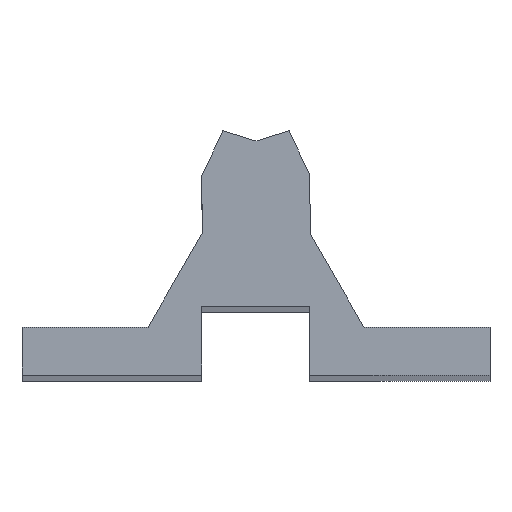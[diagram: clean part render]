
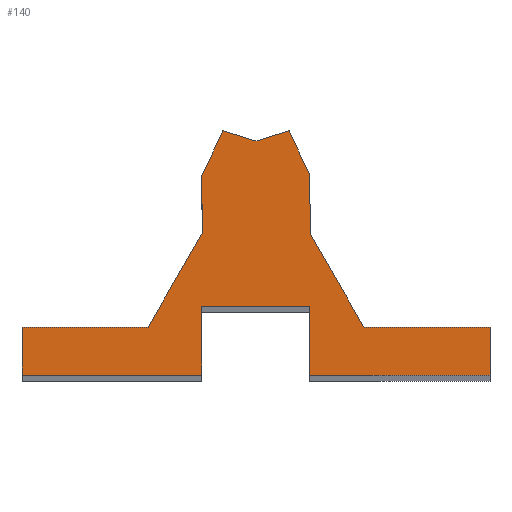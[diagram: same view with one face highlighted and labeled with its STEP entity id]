
A CAD part, top view. The second image highlights one B-rep face of the part: STEP entity #140.
In plain terms, the highlighted planar face has unit normal (0, 0, 1).
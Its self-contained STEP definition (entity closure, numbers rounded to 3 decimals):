
#16 = VERTEX_POINT ( 'NONE', #674 ) ;
#23 = DIRECTION ( 'NONE',  ( -0.5, -0.866, 0. ) ) ;
#33 = DIRECTION ( 'NONE',  ( 0., 1., 0. ) ) ;
#46 = VERTEX_POINT ( 'NONE', #1080 ) ;
#47 = CARTESIAN_POINT ( 'NONE',  ( 9., 7.5, 299.75 ) ) ;
#49 = EDGE_CURVE ( 'NONE', #898, #88, #989, .T. ) ;
#50 = ORIENTED_EDGE ( 'NONE', *, *, #651, .T. ) ;
#51 = ORIENTED_EDGE ( 'NONE', *, *, #745, .F. ) ;
#55 = LINE ( 'NONE', #150, #352 ) ;
#66 = CARTESIAN_POINT ( 'NONE',  ( -39., -4., 299.75 ) ) ;
#67 = CARTESIAN_POINT ( 'NONE',  ( 5.524, 36.771, 299.75 ) ) ;
#68 = CARTESIAN_POINT ( 'NONE',  ( 9., -4., 299.75 ) ) ;
#72 = EDGE_CURVE ( 'NONE', #815, #898, #1181, .T. ) ;
#73 = LINE ( 'NONE', #801, #740 ) ;
#88 = VERTEX_POINT ( 'NONE', #533 ) ;
#100 = ORIENTED_EDGE ( 'NONE', *, *, #729, .T. ) ;
#120 = CARTESIAN_POINT ( 'NONE',  ( -9., 19.588, 299.75 ) ) ;
#122 = EDGE_CURVE ( 'NONE', #1144, #1040, #696, .T. ) ;
#128 = VECTOR ( 'NONE', #877, 1000. ) ;
#140 = ADVANCED_FACE ( 'NONE', ( #467 ), #837, .T. ) ;
#147 = CARTESIAN_POINT ( 'NONE',  ( 9., 29.265, 299.75 ) ) ;
#150 = CARTESIAN_POINT ( 'NONE',  ( -9., 7.5, 299.75 ) ) ;
#157 = DIRECTION ( 'NONE',  ( 0., -1., 0. ) ) ;
#162 = CARTESIAN_POINT ( 'NONE',  ( 5.5, 36.771, 299.75 ) ) ;
#196 = VECTOR ( 'NONE', #672, 1000. ) ;
#200 = VERTEX_POINT ( 'NONE', #666 ) ;
#207 = VECTOR ( 'NONE', #513, 1000. ) ;
#225 = VECTOR ( 'NONE', #33, 1000. ) ;
#235 = VERTEX_POINT ( 'NONE', #290 ) ;
#240 = LINE ( 'NONE', #66, #962 ) ;
#245 = CARTESIAN_POINT ( 'NONE',  ( 5.503, 36.765, 299.75 ) ) ;
#250 = CARTESIAN_POINT ( 'NONE',  ( 9., 29.265, 299.75 ) ) ;
#270 = EDGE_CURVE ( 'NONE', #851, #340, #671, .T. ) ;
#273 = VECTOR ( 'NONE', #881, 1000. ) ;
#275 = DIRECTION ( 'NONE',  ( -1., 0., 0. ) ) ;
#290 = CARTESIAN_POINT ( 'NONE',  ( -39., 4., 299.75 ) ) ;
#291 = DIRECTION ( 'NONE',  ( 0., -1., 0. ) ) ;
#296 = ORIENTED_EDGE ( 'NONE', *, *, #1035, .F. ) ;
#306 = EDGE_CURVE ( 'NONE', #1095, #661, #760, .T. ) ;
#320 = CARTESIAN_POINT ( 'NONE',  ( 0., 35.029, 299.75 ) ) ;
#330 = CARTESIAN_POINT ( 'NONE',  ( -9., 29.265, 299.75 ) ) ;
#340 = VERTEX_POINT ( 'NONE', #47 ) ;
#344 = CARTESIAN_POINT ( 'NONE',  ( -39., 4., 299.75 ) ) ;
#352 = VECTOR ( 'NONE', #157, 1000. ) ;
#363 = VERTEX_POINT ( 'NONE', #792 ) ;
#368 = CARTESIAN_POINT ( 'NONE',  ( -9., 7.5, 299.75 ) ) ;
#377 = EDGE_CURVE ( 'NONE', #460, #46, #1151, .T. ) ;
#384 = VECTOR ( 'NONE', #291, 1000. ) ;
#401 = ORIENTED_EDGE ( 'NONE', *, *, #935, .T. ) ;
#403 = CARTESIAN_POINT ( 'NONE',  ( -39., -4., 299.75 ) ) ;
#406 = ORIENTED_EDGE ( 'NONE', *, *, #686, .T. ) ;
#422 = LINE ( 'NONE', #147, #273 ) ;
#425 = ORIENTED_EDGE ( 'NONE', *, *, #377, .T. ) ;
#453 = EDGE_CURVE ( 'NONE', #235, #1095, #584, .T. ) ;
#457 = CARTESIAN_POINT ( 'NONE',  ( -9., 29.265, 299.75 ) ) ;
#460 = VERTEX_POINT ( 'NONE', #526 ) ;
#466 = VERTEX_POINT ( 'NONE', #618 ) ;
#467 = FACE_OUTER_BOUND ( 'NONE', #586, .T. ) ;
#475 = ORIENTED_EDGE ( 'NONE', *, *, #1086, .T. ) ;
#513 = DIRECTION ( 'NONE',  ( 1., 0., 0. ) ) ;
#515 = DIRECTION ( 'NONE',  ( -1., 0., 0. ) ) ;
#526 = CARTESIAN_POINT ( 'NONE',  ( -5.503, 36.765, 299.75 ) ) ;
#527 = ORIENTED_EDGE ( 'NONE', *, *, #907, .T. ) ;
#533 = CARTESIAN_POINT ( 'NONE',  ( 0., 35.029, 299.75 ) ) ;
#542 = LINE ( 'NONE', #1000, #883 ) ;
#550 = VECTOR ( 'NONE', #23, 1000. ) ;
#573 = ORIENTED_EDGE ( 'NONE', *, *, #453, .T. ) ;
#582 = CARTESIAN_POINT ( 'NONE',  ( -39., 4., 299.75 ) ) ;
#584 = LINE ( 'NONE', #773, #128 ) ;
#586 = EDGE_LOOP ( 'NONE', ( #1068, #401, #100, #817, #1193, #527, #886, #768, #406, #425, #475, #713, #50, #573, #628, #51, #296 ) ) ;
#595 = DIRECTION ( 'NONE',  ( -0.954, 0.301, 0. ) ) ;
#618 = CARTESIAN_POINT ( 'NONE',  ( 39., 4., 299.75 ) ) ;
#628 = ORIENTED_EDGE ( 'NONE', *, *, #306, .T. ) ;
#629 = AXIS2_PLACEMENT_3D ( 'NONE', #1100, #738, #1116 ) ;
#633 = CARTESIAN_POINT ( 'NONE',  ( -18., 4., 299.75 ) ) ;
#644 = VERTEX_POINT ( 'NONE', #941 ) ;
#651 = EDGE_CURVE ( 'NONE', #1040, #235, #1050, .T. ) ;
#661 = VERTEX_POINT ( 'NONE', #766 ) ;
#663 = LINE ( 'NONE', #320, #847 ) ;
#666 = CARTESIAN_POINT ( 'NONE',  ( -9., 7.5, 299.75 ) ) ;
#671 = LINE ( 'NONE', #974, #225 ) ;
#672 = DIRECTION ( 'NONE',  ( -1., 0., 0. ) ) ;
#674 = CARTESIAN_POINT ( 'NONE',  ( 18., 4., 299.75 ) ) ;
#680 = DIRECTION ( 'NONE',  ( -0.423, -0.906, 0. ) ) ;
#686 = EDGE_CURVE ( 'NONE', #88, #460, #663, .T. ) ;
#696 = LINE ( 'NONE', #1073, #550 ) ;
#713 = ORIENTED_EDGE ( 'NONE', *, *, #122, .T. ) ;
#718 = VECTOR ( 'NONE', #970, 1000. ) ;
#729 = EDGE_CURVE ( 'NONE', #363, #466, #73, .T. ) ;
#738 = DIRECTION ( 'NONE',  ( 0., 0., 1. ) ) ;
#740 = VECTOR ( 'NONE', #990, 1000. ) ;
#745 = EDGE_CURVE ( 'NONE', #200, #661, #55, .T. ) ;
#760 = LINE ( 'NONE', #403, #207 ) ;
#763 = VECTOR ( 'NONE', #275, 1000. ) ;
#766 = CARTESIAN_POINT ( 'NONE',  ( -9., -4., 299.75 ) ) ;
#768 = ORIENTED_EDGE ( 'NONE', *, *, #49, .T. ) ;
#773 = CARTESIAN_POINT ( 'NONE',  ( -39., 4., 299.75 ) ) ;
#792 = CARTESIAN_POINT ( 'NONE',  ( 39., -4., 299.75 ) ) ;
#801 = CARTESIAN_POINT ( 'NONE',  ( 39., 4., 299.75 ) ) ;
#815 = VERTEX_POINT ( 'NONE', #250 ) ;
#817 = ORIENTED_EDGE ( 'NONE', *, *, #919, .T. ) ;
#819 = LINE ( 'NONE', #368, #763 ) ;
#837 = PLANE ( 'NONE',  #629 ) ;
#847 = VECTOR ( 'NONE', #595, 1000. ) ;
#851 = VERTEX_POINT ( 'NONE', #68 ) ;
#864 = EDGE_CURVE ( 'NONE', #16, #644, #542, .T. ) ;
#877 = DIRECTION ( 'NONE',  ( 0., -1., 0. ) ) ;
#879 = VECTOR ( 'NONE', #680, 1000. ) ;
#881 = DIRECTION ( 'NONE',  ( 0., 1., 0. ) ) ;
#883 = VECTOR ( 'NONE', #995, 1000. ) ;
#886 = ORIENTED_EDGE ( 'NONE', *, *, #72, .T. ) ;
#898 = VERTEX_POINT ( 'NONE', #245 ) ;
#907 = EDGE_CURVE ( 'NONE', #644, #815, #422, .T. ) ;
#919 = EDGE_CURVE ( 'NONE', #466, #16, #1167, .T. ) ;
#935 = EDGE_CURVE ( 'NONE', #851, #363, #240, .T. ) ;
#941 = CARTESIAN_POINT ( 'NONE',  ( 9., 19.588, 299.75 ) ) ;
#962 = VECTOR ( 'NONE', #969, 1000. ) ;
#969 = DIRECTION ( 'NONE',  ( 1., 0., 0. ) ) ;
#970 = DIRECTION ( 'NONE',  ( -0.954, -0.301, 0. ) ) ;
#974 = CARTESIAN_POINT ( 'NONE',  ( 9., 7.5, 299.75 ) ) ;
#989 = LINE ( 'NONE', #67, #718 ) ;
#990 = DIRECTION ( 'NONE',  ( 0., 1., 0. ) ) ;
#995 = DIRECTION ( 'NONE',  ( -0.5, 0.866, 0. ) ) ;
#1000 = CARTESIAN_POINT ( 'NONE',  ( 18., 4., 299.75 ) ) ;
#1002 = VECTOR ( 'NONE', #515, 1000. ) ;
#1015 = VECTOR ( 'NONE', #1173, 1000. ) ;
#1028 = CARTESIAN_POINT ( 'NONE',  ( -39., -4., 299.75 ) ) ;
#1035 = EDGE_CURVE ( 'NONE', #340, #200, #819, .T. ) ;
#1040 = VERTEX_POINT ( 'NONE', #633 ) ;
#1050 = LINE ( 'NONE', #582, #196 ) ;
#1068 = ORIENTED_EDGE ( 'NONE', *, *, #270, .F. ) ;
#1073 = CARTESIAN_POINT ( 'NONE',  ( -18., 4., 299.75 ) ) ;
#1080 = CARTESIAN_POINT ( 'NONE',  ( -9., 29.265, 299.75 ) ) ;
#1086 = EDGE_CURVE ( 'NONE', #46, #1144, #1108, .T. ) ;
#1095 = VERTEX_POINT ( 'NONE', #1028 ) ;
#1100 = CARTESIAN_POINT ( 'NONE',  ( 0., 0., 299.75 ) ) ;
#1108 = LINE ( 'NONE', #457, #384 ) ;
#1116 = DIRECTION ( 'NONE',  ( 1., 0., 0. ) ) ;
#1144 = VERTEX_POINT ( 'NONE', #120 ) ;
#1151 = LINE ( 'NONE', #330, #879 ) ;
#1167 = LINE ( 'NONE', #344, #1002 ) ;
#1173 = DIRECTION ( 'NONE',  ( -0.423, 0.906, 0. ) ) ;
#1181 = LINE ( 'NONE', #162, #1015 ) ;
#1193 = ORIENTED_EDGE ( 'NONE', *, *, #864, .T. ) ;
